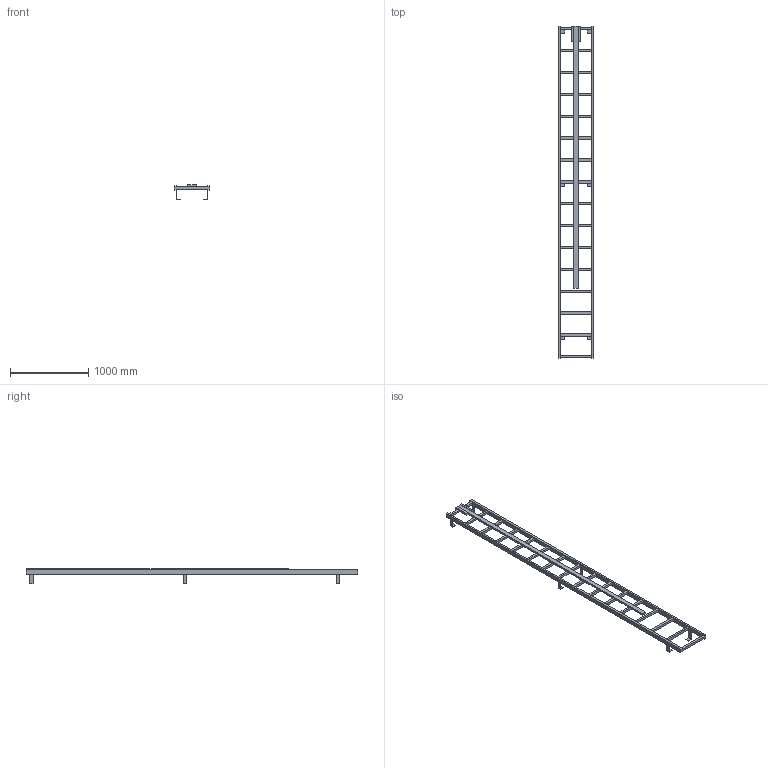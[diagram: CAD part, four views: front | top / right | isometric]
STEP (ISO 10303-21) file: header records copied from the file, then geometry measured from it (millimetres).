
FILE_DESCRIPTION((''),'2;1');
FILE_NAME('017_000109','2017-06-19T',('set'),('HUBER SE'),'PRO/ENGINEER BY PARAMETRIC TECHNOLOGY CORPORATION, 2015280','PRO/ENGINEER BY PARAMETRIC TECHNOLOGY CORPORATION, 2015280','');
FILE_SCHEMA(('CONFIG_CONTROL_DESIGN'));
Length unit declared in the file: millimetre
Products named in the file (1): 017_000109
Bounding box: 450 x 4250 x 195 mm (x, y, z)
Volume: 22845780 mm3; surface area: 2756900 mm2
Topology: 1 solids, 1 shells, 160 faces, 591 edges, 405 vertices
Faces by surface type: plane 160
Entity records: 6100 total; most frequent: CARTESIAN_POINT 1213, ORIENTED_EDGE 980, DIRECTION 898, VECTOR 544, LINE 544, EDGE_CURVE 490, VERTEX_POINT 304, EDGE_LOOP 184
